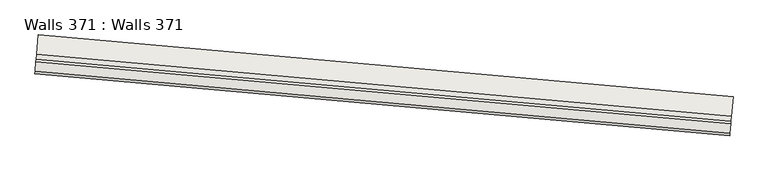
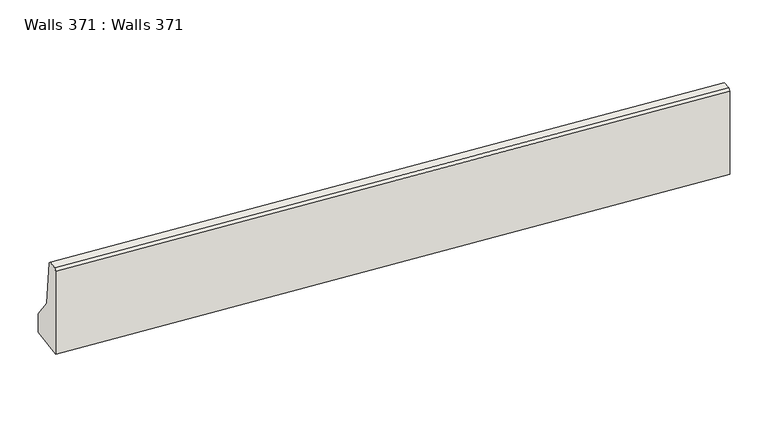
"""IFC4 building model written with IfcOpenShell, lengths in millimetres: wall geometry, Walls 371 : Walls 371."""

from ifc_helpers import new_model, si_unit, frame, origin, place, context, project, spatial, polyline, outline, extrude, source, transform, mapped, element, save


def walls_371_walls_371_97a3283b(model_context):
    return source(origin(), model_context, "Body", "SweptSolid", [
        extrude(outline(polyline([(637180.0, 400.0), (637430.0, 199.9999999), (637935.0, 150.0), (637960.0, 125.0), (637960.0, 24.9999999), (637935.0, 0.0), (636960.0, 0.0), (636960.0, 400.0), (637180.0, 400.0)])), frame((-667547.3358477, -419609.5298999, 0.0), z_axis=(-0.9960550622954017, 0.08873732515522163, 0.0), x_axis=(0.0, 0.0, 1.0)), (0.0, 0.0, 1.0), 7149.9999999),
    ])


if __name__ == "__main__":
    model = new_model("IFC4")
    model_context = context("Model", 3, world=origin())
    ifc_project = project(units=[si_unit("LENGTHUNIT", "METRE", prefix="MILLI")], contexts=[model_context])
    site = spatial("IfcSite", under=ifc_project)
    building = spatial("IfcBuilding", under=site)
    placement = place(None, origin())
    walls_371_walls_371_shape = walls_371_walls_371_97a3283b(model_context)
    element("IfcWall", 1, ObjectType="Walls 371 : Walls 371", at=placement, inside=building, context=model_context, shape_type="MappedRepresentation", body=[
        mapped(walls_371_walls_371_shape, transform((0.0, 0.0, 0.0), x_axis=(1.0, 0.0, 0.0), y_axis=(0.0, 1.0, 0.0), z_axis=(0.0, 0.0, 1.0))),
    ])
    save(model, "model.ifc")
